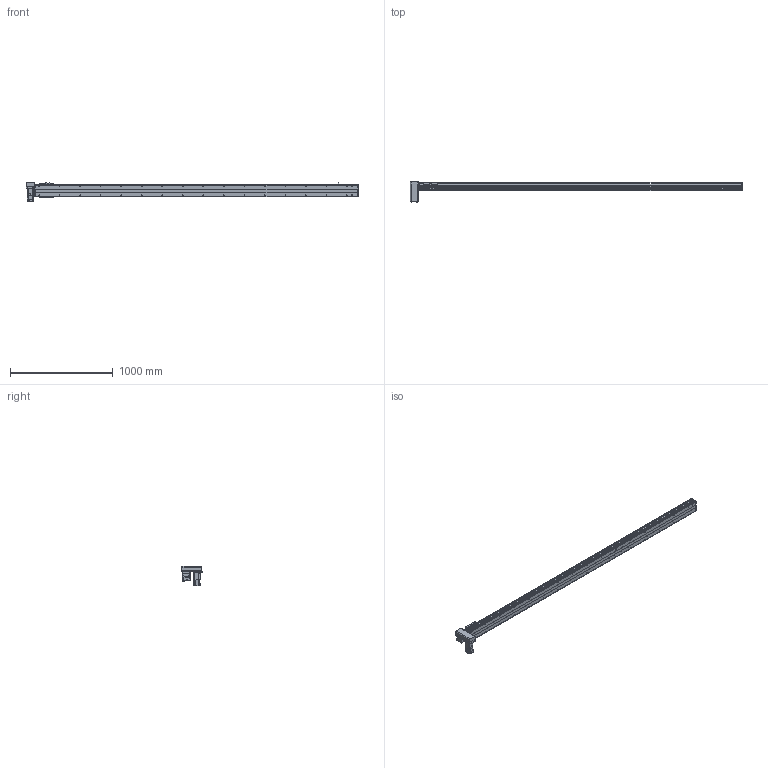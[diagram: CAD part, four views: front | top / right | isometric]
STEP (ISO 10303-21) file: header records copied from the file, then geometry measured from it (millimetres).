
FILE_DESCRIPTION(/* description */ ('STEP AP214'),/* implementation_level */ '2;1');
FILE_NAME(/* name */ 'PBS120-P40-S2850-RD-T40-C1-N(0)',/* time_stamp */ '2022-06-06T02:44:37+02:00',/* author */ ('License CC BY-ND 4.0'),/* organization */ ('CADENAS'),/* preprocessor_version */ 'ST-DEVELOPER v18.102',/* originating_system */ 'PARTsolutions',/* authorisation */ ' ');
FILE_SCHEMA (('AUTOMOTIVE_DESIGN {1 0 10303 214 3 1 1}'));
Length unit declared in the file: millimetre
Products named in the file (7): PBS120-P40-S2850-RD-T40-C1-N(0); PBS120_sensor; PBS120_plant; PBS120_sliser; T40-p1; PBS120T-RD_motors; PBS120-S2850()_body
Assembly tree (8 placements, depth 2):
  PBS120-P40-S2850-RD-T40-C1-N(0)
    PBS120_sensor  x3
    PBS120_plant
    PBS120_sliser
    T40-p1
    PBS120T-RD_motors
    PBS120-S2850()_body
Bounding box: 3236 x 196 x 189.7 mm (x, y, z)
Volume: 11982745.2 mm3; surface area: 2492505.5 mm2
Topology: 8 solids, 8 shells, 882 faces, 2246 edges, 1441 vertices
Faces by surface type: plane 567, cylinder 247, cone 66, torus 2
Full cylindrical faces by diameter (mm): 2.459 x6, 3.242 x4, 4 x2, 4.134 x4, 4.5 x10, 4.917 x38, 5.5 x11, 6 x2, 6.6 x1, 7 x2, 8.5 x4, 9 x4, 12 x1, 14 x1, 30 x2, 40 x1, 50 x2
Entity records: 22674 total; most frequent: DIRECTION 3956, CARTESIAN_POINT 3839, ORIENTED_EDGE 3610, EDGE_CURVE 1805, AXIS2_PLACEMENT_3D 1364, VERTEX_POINT 1247, LINE 1228, VECTOR 1228
